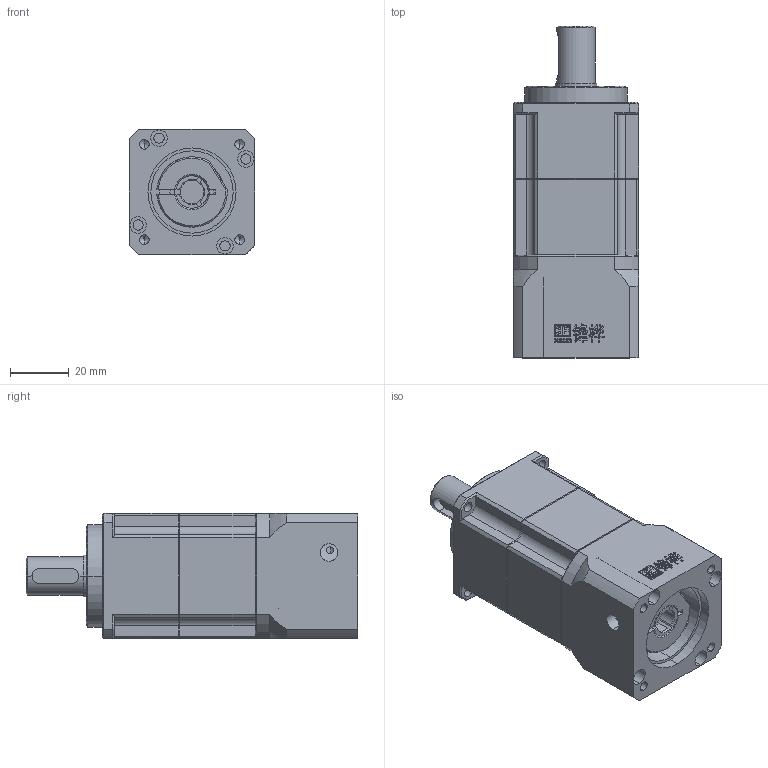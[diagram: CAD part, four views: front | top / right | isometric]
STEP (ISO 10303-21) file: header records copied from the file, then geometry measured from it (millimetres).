
FILE_DESCRIPTION (( 'STEP AP214' ), '1' );
FILE_NAME ('PAB042-L2-S2-P2 8-30-46-M4.STEP', '2020-07-30T03:22:47', ( '微软用户' ), ( '微软中国' ), 'SwSTEP 2.0', 'SolidWorks 2014', '' );
FILE_SCHEMA (( 'AUTOMOTIVE_DESIGN' ));
Length unit declared in the file: millimetre
Products named in the file (2): PAB042-L2-S2-P2 8-30-46-M4
Bounding box: 42.6 x 113 x 42.6 mm (x, y, z)
Volume: 138077 mm3; surface area: 32648.3 mm2
Topology: 4 solids, 4 shells, 932 faces, 2586 edges, 1698 vertices
Faces by surface type: plane 683, cylinder 126, bspline 60, cone 58, sphere 5
Entity records: 40388 total; most frequent: CARTESIAN_POINT 6521, ORIENTED_EDGE 5152, DIRECTION 4440, EDGE_CURVE 2576, VECTOR 2038, LINE 2038, VERTEX_POINT 1698, AXIS2_PLACEMENT_3D 1201
